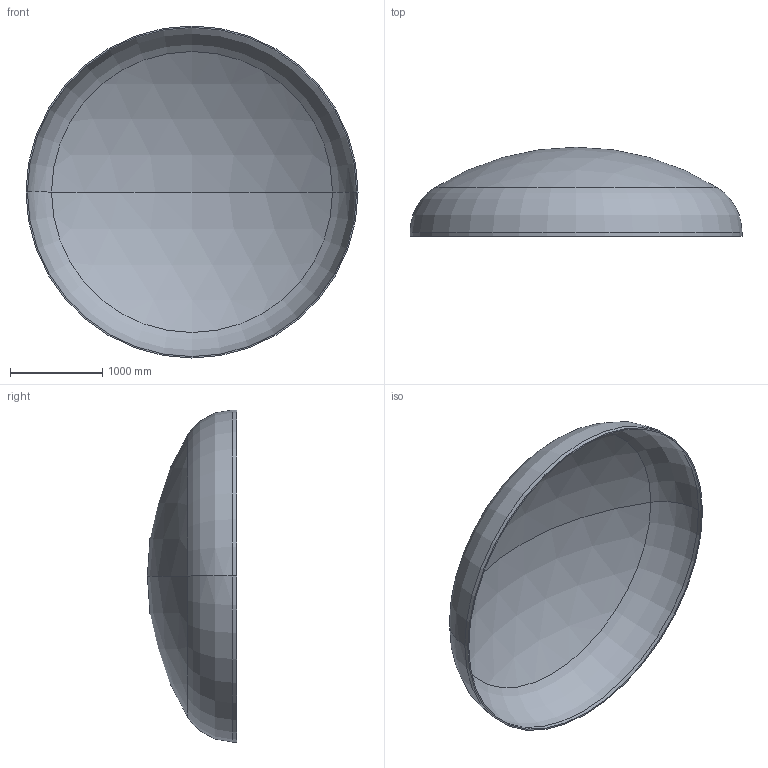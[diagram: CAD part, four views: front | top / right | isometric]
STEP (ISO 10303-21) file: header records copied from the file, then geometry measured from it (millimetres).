
FILE_DESCRIPTION (( 'STEP AP203' ), '1' );
FILE_NAME ('DIN 28013 Korbbogenform_-_Boden DIN 28013 - 3600 x 45 - I - s=15.step', '2016-07-01T20:07:49', ( '' ), ( '' ), 'SwSTEP 2.0', 'SolidWorks 2013', '' );
FILE_SCHEMA (( 'CONFIG_CONTROL_DESIGN' ));
Length unit declared in the file: millimetre
Products named in the file (1): DIN 28013 Korbbogenform_-_Boden DIN 28013 - 3600 x 45 - I - s=15
Bounding box: 3600 x 967 x 3600 mm (x, y, z)
Volume: 217956662.2 mm3; surface area: 29230287 mm2
Topology: 1 solids, 1 shells, 13 faces, 24 edges, 14 vertices
Faces by surface type: torus 4, cylinder 4, sphere 4, plane 1
Entity records: 407 total; most frequent: DIRECTION 72, CARTESIAN_POINT 52, ORIENTED_EDGE 48, AXIS2_PLACEMENT_3D 34, EDGE_CURVE 24, CIRCLE 20, EDGE_LOOP 14, VERTEX_POINT 14
